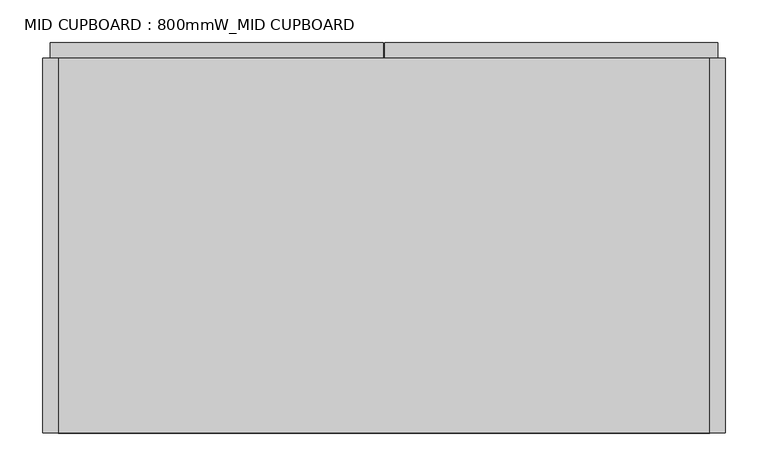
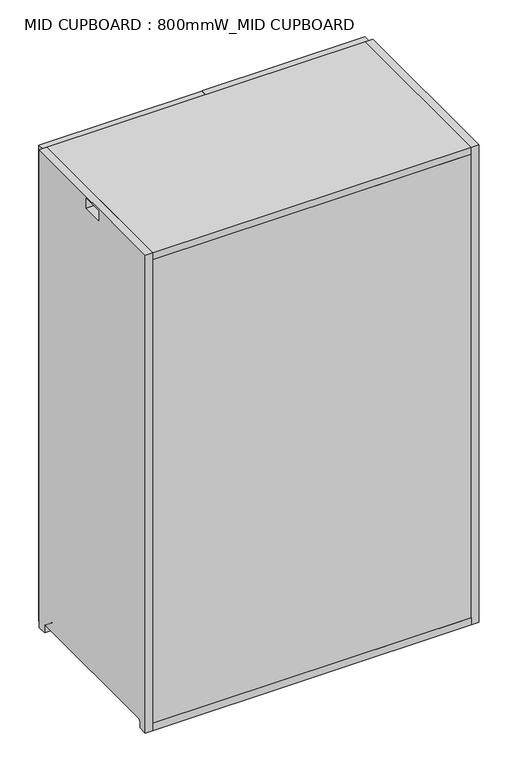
"""IFC4 building model written with IfcOpenShell, lengths in millimetres: furniture geometry, MID CUPBOARD : 800mmW_MID CUPBOARD."""

from ifc_helpers import new_model, si_unit, point, frame, frame_2d, origin, place, context, project, spatial, polyline, circle_curve, trimmed, segment, composite_curve, outline, extrude, source, transform, mapped, element, save
from ifc_brep_helpers import plane_surface, revolved_surface, advanced_brep


def mid_cupboard_800mmw_mid_cupboard_061aa775(model_context):
    return source(origin(), model_context, "Body", "SolidModel", [
        extrude(outline(composite_curve([segment(polyline([(220.0, 1210.0), (220.0, 0.0), (198.0, 0.0), (198.0, 17.0)]), True, "CONTINUOUS"), segment(trimmed(circle_curve(frame_2d((194.0, 17.0)), 4.0), [point((198.0, 17.0))], [point((194.0, 21.0))], True, "CARTESIAN"), True, "CONTINUOUS"), segment(polyline([(194.0, 21.0), (-194.0, 21.0)]), True, "CONTINUOUS"), segment(trimmed(circle_curve(frame_2d((-194.0, 17.0)), 4.0), [point((-194.0, 21.0))], [point((-198.0, 17.0))], True, "CARTESIAN"), True, "CONTINUOUS"), segment(polyline([(-198.0, 17.0), (-198.0, 0.0), (-220.0, 0.0), (-220.0, 1210.0), (220.0, 1210.0)]), True, "CONTINUOUS")], self_intersect=False), holes=[polyline([(26.0, 1205.0), (-26.0, 1205.0), (-26.0, 1180.0), (26.0, 1180.0), (26.0, 1205.0)])]), frame((-400.0, 0.0, 0.0), z_axis=(1.0, 0.0, 0.0), x_axis=(0.0, 1.0, 0.0)), (0.0, 0.0, 1.0), 18.0),
        advanced_brep(
        [(382.0, -220.0, 18.0), (382.0, 220.0, 18.0), (-382.0, 220.0, 18.0), (-382.0, 197.8729833, 18.0), (-376.1019215, 197.8729833, 18.0), (-376.1019215, -197.8729833, 18.0), (-382.0, -197.8729833, 18.0), (-382.0, -220.0, 18.0), (382.0, -220.0, 0.0), (-382.0, -220.0, 0.0), (-382.0, -198.0, 0.0), (-376.1019215, -198.0, 0.0), (-376.1019215, 198.0, 0.0), (-382.0, 198.0, 0.0), (-382.0, 220.0, 0.0), (382.0, 220.0, 0.0), (-382.0, -198.0, 17.0), (-382.0, 198.0, 17.0), (-376.1019215, -198.0, 17.0), (-376.1019215, 198.0, 17.0)],
        [
            (0, 1),
            (1, 2),
            (2, 3),
            (3, 4),
            (4, 5),
            (5, 6),
            (6, 7),
            (7, 0),
            (8, 9),
            (9, 10),
            (10, 11),
            (11, 12),
            (12, 13),
            (13, 14),
            (14, 15),
            (15, 8),
            (7, 9),
            (8, 0),
            (6, 16, circle_curve(frame((-382.0, -194.0, 17.0), z_axis=(1.0, 0.0, 0.0), x_axis=(0.0, -1.0, 0.0)), 4.0)),
            (16, 10),
            (13, 17),
            (17, 3, circle_curve(frame((-382.0, 194.0, 17.0), z_axis=(1.0, 0.0, 0.0), x_axis=(0.0, -1.0, 0.0)), 4.0)),
            (2, 14),
            (1, 15),
            (18, 5, circle_curve(frame((-376.1019215, -194.0, 17.0), z_axis=(-1.0, 0.0, 0.0), x_axis=(0.0, -1.0, 0.0)), 4.0)),
            (4, 19, circle_curve(frame((-376.1019215, 194.0, 17.0), z_axis=(-1.0, 0.0, 0.0), x_axis=(0.0, -1.0, 0.0)), 4.0)),
            (19, 12),
            (11, 18),
            (17, 19),
            (16, 18),
        ],
        [
            plane_surface(frame((-382.0, -220.0, 18.0), z_axis=(0.0, 0.0, 1.0), x_axis=(-1.0, 0.0, 0.0))),
            plane_surface(frame((-382.0, -220.0, 0.0), z_axis=(0.0, 0.0, -1.0), x_axis=(1.0, 0.0, 0.0))),
            plane_surface(frame((382.0, -220.0, 18.0), z_axis=(0.0, -1.0, 0.0), x_axis=(0.0, 0.0, -1.0))),
            plane_surface(frame((-382.0, -220.0, 18.0), z_axis=(-1.0, 0.0, 0.0), x_axis=(0.0, 0.0, -1.0))),
            plane_surface(frame((-382.0, 220.0, 18.0), z_axis=(0.0, 1.0, 0.0), x_axis=(0.0, 0.0, -1.0))),
            plane_surface(frame((382.0, 220.0, 18.0), z_axis=(1.0, 0.0, 0.0), x_axis=(0.0, 0.0, -1.0))),
            plane_surface(frame((-376.1019215, 190.0, 17.0), z_axis=(-1.0, 0.0, 0.0), x_axis=(0.0, 0.0, 1.0))),
            revolved_surface(polyline([(-376.1019215, 190.0, 17.0), (-382.0, 190.0, 17.0)]), (-406.0458228, 194.0, 17.0), (1.0, 0.0, 0.0)),
            plane_surface(frame((-376.1019215, 198.0, 17.0), z_axis=(0.0, -1.0, 0.0), x_axis=(-1.0, 0.0, 0.0))),
            plane_surface(frame((-376.1019215, -198.0, 0.0), z_axis=(0.0, 1.0, 0.0), x_axis=(-1.0, 0.0, 0.0))),
            revolved_surface(polyline([(-376.1019215, -198.0, 17.0), (-382.0, -198.0, 17.0)]), (-406.0458228, -194.0, 17.0), (1.0, 0.0, 0.0)),
        ],
        [
            (0, [[1, 2, 3, 4, 5, 6, 7, 8]]),
            (1, [[9, 10, 11, 12, 13, 14, 15, 16]]),
            (2, [[17, -9, 18, -8]]),
            (3, [[-7, 19, 20, -10, -17]]),
            (3, [[-14, 21, 22, -3, 23]]),
            (4, [[24, -15, -23, -2]]),
            (5, [[-18, -16, -24, -1]]),
            (6, [[25, -5, 26, 27, -12, 28]]),
            (7, [[-4, -22, 29, -26]]),
            (8, [[-29, -21, -13, -27]]),
            (9, [[-11, -20, 30, -28]]),
            (10, [[-30, -19, -6, -25]]),
        ],
    ),
        extrude(outline(composite_curve([segment(polyline([(220.0, 1210.0), (220.0, 0.0), (198.0, 0.0), (198.0, 17.0)]), True, "CONTINUOUS"), segment(trimmed(circle_curve(frame_2d((194.0, 17.0)), 4.0), [point((198.0, 17.0))], [point((194.0, 21.0))], True, "CARTESIAN"), True, "CONTINUOUS"), segment(polyline([(194.0, 21.0), (-194.0, 21.0)]), True, "CONTINUOUS"), segment(trimmed(circle_curve(frame_2d((-194.0, 17.0)), 4.0), [point((-194.0, 21.0))], [point((-198.0, 17.0))], True, "CARTESIAN"), True, "CONTINUOUS"), segment(polyline([(-198.0, 17.0), (-198.0, 0.0), (-220.0, 0.0), (-220.0, 1210.0), (220.0, 1210.0)]), True, "CONTINUOUS")], self_intersect=False), holes=[polyline([(26.0, 1205.0), (-26.0, 1205.0), (-26.0, 1180.0), (26.0, 1180.0), (26.0, 1205.0)])]), frame((382.0, 0.0, 0.0), z_axis=(1.0, 0.0, 0.0), x_axis=(0.0, 1.0, 0.0)), (0.0, 0.0, 1.0), 18.0),
        extrude(outline(polyline([(382.0, -220.0), (-382.0, -220.0), (-382.0, -202.0), (382.0, -202.0), (382.0, -220.0)])), frame((0.0, 0.0, 18.0), z_axis=(0.0, 0.0, 1.0), x_axis=(1.0, 0.0, 0.0)), (0.0, 0.0, 1.0), 1174.0),
        extrude(outline(polyline([(382.0, -202.0), (-382.0, -202.0), (-382.0, 220.0), (382.0, 220.0), (382.0, -202.0)])), frame((0.0, 0.0, 398.5), z_axis=(0.0, 0.0, 1.0), x_axis=(1.0, 0.0, 0.0)), (0.0, 0.0, 1.0), 18.0),
        extrude(outline(polyline([(382.0, -202.0), (-382.0, -202.0), (-382.0, 220.0), (382.0, 220.0), (382.0, -202.0)])), frame((0.0, 0.0, 793.5), z_axis=(0.0, 0.0, 1.0), x_axis=(1.0, 0.0, 0.0)), (0.0, 0.0, 1.0), 18.0),
        extrude(outline(polyline([(382.0, -220.0), (-382.0, -220.0), (-382.0, 220.0), (382.0, 220.0), (382.0, -220.0)])), frame((0.0, 0.0, 1192.0), z_axis=(0.0, 0.0, 1.0), x_axis=(1.0, 0.0, 0.0)), (0.0, 0.0, 1.0), 18.0),
        extrude(outline(polyline([(9.0, -202.0), (-9.0, -202.0), (-9.0, 220.0), (9.0, 220.0), (9.0, -202.0)])), frame((0.0, 0.0, 18.0), z_axis=(0.0, 0.0, 1.0), x_axis=(1.0, 0.0, 0.0)), (0.0, 0.0, 1.0), 1174.0),
        extrude(outline(polyline([(391.0, 220.0), (1.0, 220.0), (1.0, 238.0), (391.0, 238.0), (391.0, 220.0)])), frame((0.0, 0.0, 2.0), z_axis=(0.0, 0.0, 1.0), x_axis=(1.0, 0.0, 0.0)), (0.0, 0.0, 1.0), 1206.0),
        extrude(outline(polyline([(-391.0, 220.0), (-391.0, 238.0), (-1.0, 238.0), (-1.0, 220.0), (-391.0, 220.0)])), frame((0.0, 0.0, 2.0), z_axis=(0.0, 0.0, 1.0), x_axis=(1.0, 0.0, 0.0)), (0.0, 0.0, 1.0), 1206.0),
    ])


if __name__ == "__main__":
    model = new_model("IFC4")
    model_context = context("Model", 3, world=origin())
    ifc_project = project(units=[si_unit("LENGTHUNIT", "METRE", prefix="MILLI")], contexts=[model_context])
    site = spatial("IfcSite", under=ifc_project)
    building = spatial("IfcBuilding", under=site)
    placement = place(None, origin())
    mid_cupboard_800mmw_mid_cupboard_shape = mid_cupboard_800mmw_mid_cupboard_061aa775(model_context)
    element("IfcFurniture", 1, ObjectType="MID CUPBOARD : 800mmW_MID CUPBOARD", at=placement, inside=building, context=model_context, shape_type="MappedRepresentation", body=[
        mapped(mid_cupboard_800mmw_mid_cupboard_shape, transform((0.0, 0.0, 0.0), x_axis=(1.0, 0.0, 0.0), y_axis=(0.0, 1.0, 0.0), z_axis=(0.0, 0.0, 1.0))),
    ])
    save(model, "model.ifc")
